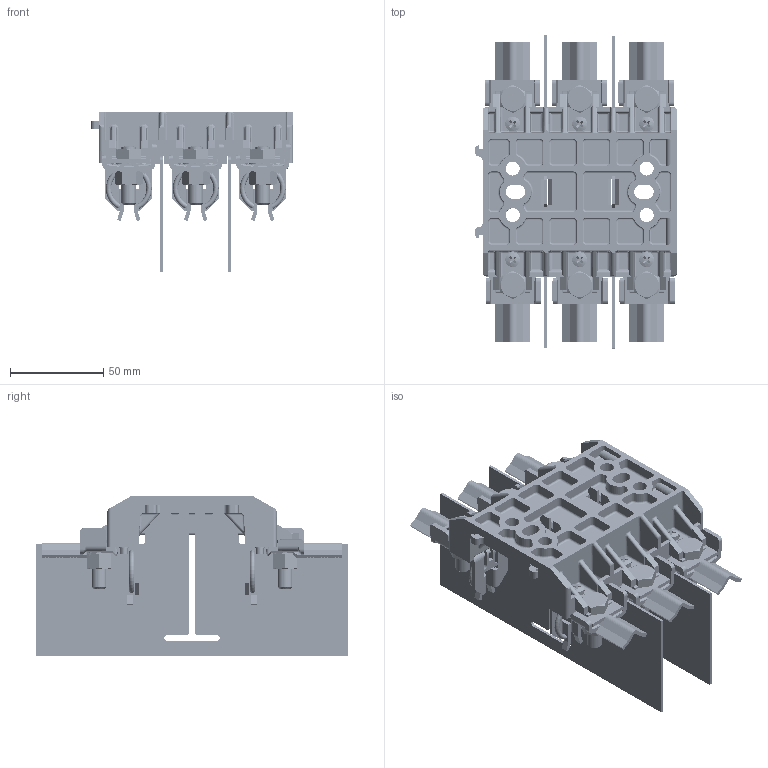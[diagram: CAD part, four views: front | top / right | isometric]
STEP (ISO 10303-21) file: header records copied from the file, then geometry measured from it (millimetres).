
FILE_DESCRIPTION (( 'STEP AP214' ), '1' );
FILE_NAME ('pojistkovy_spodek_880027_-_0.STEP', '2022-12-05T10:52:43', ( '' ), ( '' ), 'SwSTEP 2.0', 'SolidWorks 2015', '' );
FILE_SCHEMA (( 'AUTOMOTIVE_DESIGN' ));
Length unit declared in the file: millimetre
Products named in the file (16): KROUZEK_393039_g_0_sestava; Kontakt_561118_-_0_Z00-s; kontakt_561143_-_0; Matice_ISO4032_M8_3111200051_-_0; zakladna_523134_-_0_Z00; Vlozka_530975_-_0_Z01; Sroub_ISO_4017_M8x20_3092030121_-_0; pojistkovy_spodek_880027_-_0; Podlozka_CSN_021702_8_4_3112102023_-_0; SROUB_M4x10_DIN7985A_BN384__NA010191_a_0; Podlozka_CSN_021740_8_NA010081_-_0; Vlozka_530975_-_0_Z00; Sroub_ISO_4017_M8x25_3092030109_-_0; prilozka_605444_-_0_Z00; Podlozka_CSN_021703_4_3_NA010022_-_0; potisk_984095_-_0_Z00
Assembly tree (75 placements, depth 2):
  pojistkovy_spodek_880027_-_0
    zakladna_523134_-_0_Z00
    potisk_984095_-_0_Z00
    Kontakt_561118_-_0_Z00-s  x6
    KROUZEK_393039_g_0_sestava  x6
    Podlozka_CSN_021703_4_3_NA010022_-_0  x6
    SROUB_M4x10_DIN7985A_BN384__NA010191_a_0  x6
    Vlozka_530975_-_0_Z00  x2
    Sroub_ISO_4017_M8x25_3092030109_-_0  x6
    Podlozka_CSN_021702_8_4_3112102023_-_0  x6
    Podlozka_CSN_021740_8_NA010081_-_0  x6
    Matice_ISO4032_M8_3111200051_-_0  x12
    Vlozka_530975_-_0_Z01  x2
    kontakt_561143_-_0  x6
    prilozka_605444_-_0_Z00  x6
    Sroub_ISO_4017_M8x20_3092030121_-_0  x3
Bounding box: 108.5 x 168.2 x 85.7 mm (x, y, z)
Volume: 210918.1 mm3; surface area: 215384.5 mm2
Topology: 75 solids, 75 shells, 7687 faces, 19651 edges, 12244 vertices
Faces by surface type: plane 3936, cylinder 1913, cone 768, bspline 698, torus 282, sphere 90
Entity records: 114816 total; most frequent: CARTESIAN_POINT 41742, ORIENTED_EDGE 14750, DIRECTION 12739, EDGE_CURVE 7375, VERTEX_POINT 4635, VECTOR 4345, LINE 4345, AXIS2_PLACEMENT_3D 4197
